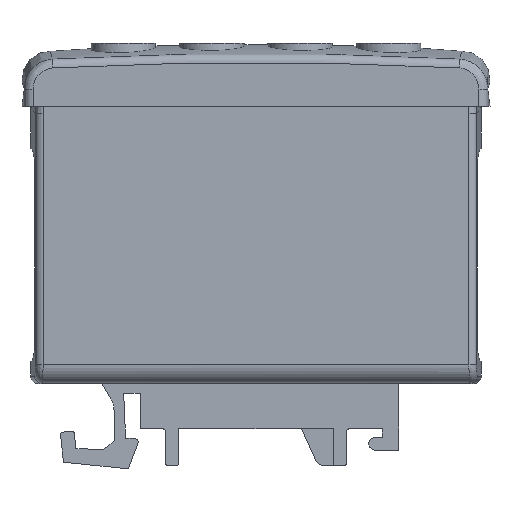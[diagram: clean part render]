
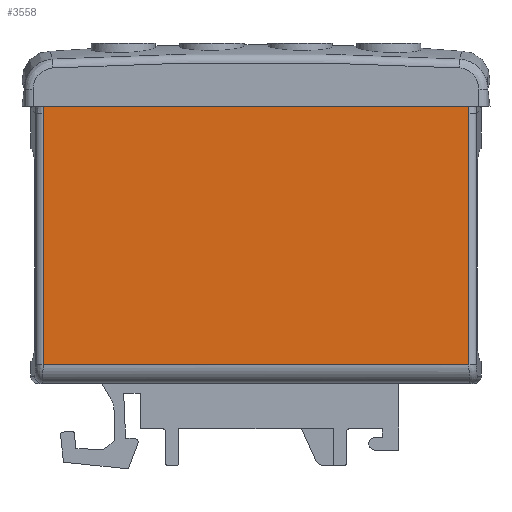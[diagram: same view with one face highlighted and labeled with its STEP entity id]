
A CAD part, front view. The second image highlights one B-rep face of the part: STEP entity #3558.
In plain terms, the highlighted planar face has unit normal (0, -1, 0).
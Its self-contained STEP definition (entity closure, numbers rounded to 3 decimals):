
#90=B_SPLINE_CURVE_WITH_KNOTS('',3,(#6041,#6042,#6043,#6044),
 .UNSPECIFIED.,.F.,.F.,(4,4),(0.01,0.011),
 .UNSPECIFIED.);
#94=B_SPLINE_CURVE_WITH_KNOTS('',3,(#6148,#6149,#6150,#6151),
 .UNSPECIFIED.,.F.,.F.,(4,4),(0.,0.001),.UNSPECIFIED.);
#1087=ORIENTED_EDGE('',*,*,#1443,.F.);
#1088=ORIENTED_EDGE('',*,*,#1640,.T.);
#1089=ORIENTED_EDGE('',*,*,#1637,.T.);
#1090=ORIENTED_EDGE('',*,*,#1660,.F.);
#1091=ORIENTED_EDGE('',*,*,#1663,.T.);
#1092=ORIENTED_EDGE('',*,*,#1664,.T.);
#1443=EDGE_CURVE('',#1881,#1882,#2214,.T.);
#1637=EDGE_CURVE('',#2008,#2007,#2336,.T.);
#1640=EDGE_CURVE('',#1881,#2008,#90,.T.);
#1660=EDGE_CURVE('',#2017,#2007,#2348,.T.);
#1663=EDGE_CURVE('',#2017,#2019,#2350,.F.);
#1664=EDGE_CURVE('',#2019,#1882,#94,.T.);
#1881=VERTEX_POINT('',#5476);
#1882=VERTEX_POINT('',#5478);
#2007=VERTEX_POINT('',#6019);
#2008=VERTEX_POINT('',#6023);
#2017=VERTEX_POINT('',#6141);
#2019=VERTEX_POINT('',#6147);
#2214=LINE('',#5477,#2532);
#2336=LINE('',#6022,#2654);
#2348=LINE('',#6140,#2666);
#2350=LINE('',#6146,#2668);
#2532=VECTOR('',#4339,1000.);
#2654=VECTOR('',#4703,1000.);
#2666=VECTOR('',#4743,1000.);
#2668=VECTOR('',#4749,1000.);
#2919=EDGE_LOOP('',(#1087,#1088,#1089,#1090,#1091,#1092));
#3195=FACE_BOUND('',#2919,.T.);
#3364=PLANE('',#3871);
#3558=ADVANCED_FACE('',(#3195),#3364,.T.);
#3871=AXIS2_PLACEMENT_3D('',#6145,#4747,#4748);
#4339=DIRECTION('',(1.,0.,0.));
#4703=DIRECTION('',(0.,0.,-1.));
#4743=DIRECTION('',(-1.,0.,0.));
#4747=DIRECTION('',(0.,-1.,0.));
#4748=DIRECTION('',(0.,0.,1.));
#4749=DIRECTION('',(0.,0.,-1.));
#5476=CARTESIAN_POINT('',(-28.342,-11.6,14.5));
#5477=CARTESIAN_POINT('',(-39.318,-11.6,14.5));
#5478=CARTESIAN_POINT('',(28.342,-11.6,14.5));
#6019=CARTESIAN_POINT('',(-28.409,-11.6,-20.));
#6022=CARTESIAN_POINT('',(-28.409,-11.6,0.));
#6023=CARTESIAN_POINT('',(-28.409,-11.6,13.53));
#6041=CARTESIAN_POINT('',(-28.342,-11.6,14.5));
#6042=CARTESIAN_POINT('',(-28.386,-11.6,14.18));
#6043=CARTESIAN_POINT('',(-28.409,-11.6,13.857));
#6044=CARTESIAN_POINT('',(-28.409,-11.6,13.53));
#6140=CARTESIAN_POINT('',(-29.35,-11.6,-20.));
#6141=CARTESIAN_POINT('',(28.409,-11.6,-20.));
#6145=CARTESIAN_POINT('',(0.,-11.6,0.));
#6146=CARTESIAN_POINT('',(28.409,-11.6,0.));
#6147=CARTESIAN_POINT('',(28.409,-11.6,13.53));
#6148=CARTESIAN_POINT('',(28.409,-11.6,13.53));
#6149=CARTESIAN_POINT('',(28.409,-11.6,13.856));
#6150=CARTESIAN_POINT('',(28.386,-11.6,14.179));
#6151=CARTESIAN_POINT('',(28.342,-11.6,14.5));
